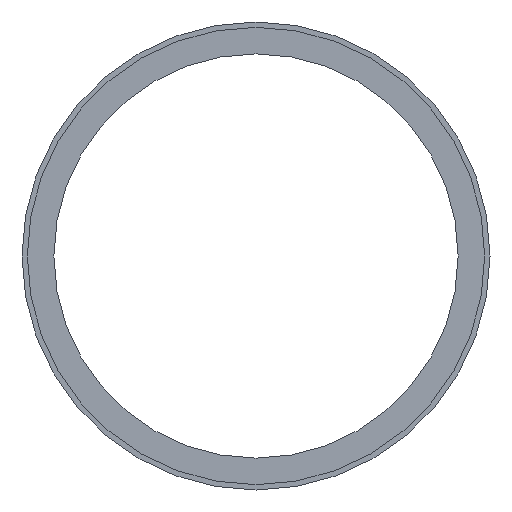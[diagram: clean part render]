
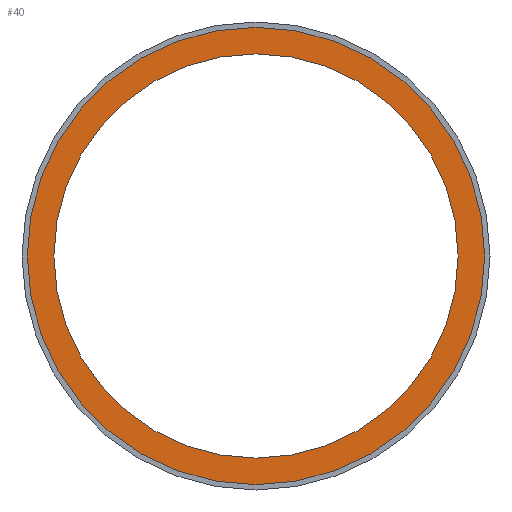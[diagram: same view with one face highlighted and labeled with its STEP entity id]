
A CAD part, front view. The second image highlights one B-rep face of the part: STEP entity #40.
In plain terms, the highlighted planar face has unit normal (0, -1, 0).
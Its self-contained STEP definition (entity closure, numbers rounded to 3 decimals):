
#40 = ADVANCED_FACE( '', ( #81, #82 ), #83, .F. );
#81 = FACE_OUTER_BOUND( '', #120, .T. );
#82 = FACE_BOUND( '', #121, .T. );
#83 = PLANE( '', #122 );
#120 = EDGE_LOOP( '', ( #161 ) );
#121 = EDGE_LOOP( '', ( #162 ) );
#122 = AXIS2_PLACEMENT_3D( '', #163, #164, #165 );
#161 = ORIENTED_EDGE( '', *, *, #191, .T. );
#162 = ORIENTED_EDGE( '', *, *, #186, .F. );
#163 = CARTESIAN_POINT( '', ( 0., 0., 22. ) );
#164 = DIRECTION( '', ( 0., 1., 0. ) );
#165 = DIRECTION( '', ( 0., 0., 1. ) );
#186 = EDGE_CURVE( '', #203, #203, #204, .T. );
#191 = EDGE_CURVE( '', #211, #211, #212, .T. );
#203 = VERTEX_POINT( '', #227 );
#204 = CIRCLE( '', #228, 19. );
#211 = VERTEX_POINT( '', #235 );
#212 = CIRCLE( '', #236, 21.5 );
#227 = CARTESIAN_POINT( '', ( 0., 0., -19. ) );
#228 = AXIS2_PLACEMENT_3D( '', #251, #252, #253 );
#235 = CARTESIAN_POINT( '', ( 0., 0., -21.5 ) );
#236 = AXIS2_PLACEMENT_3D( '', #260, #261, #262 );
#251 = CARTESIAN_POINT( '', ( 0., 0., 0. ) );
#252 = DIRECTION( '', ( 0., -1., 0. ) );
#253 = DIRECTION( '', ( 0., 0., -1. ) );
#260 = CARTESIAN_POINT( '', ( 0., 0., 0. ) );
#261 = DIRECTION( '', ( 0., -1., 0. ) );
#262 = DIRECTION( '', ( 0., 0., -1. ) );
